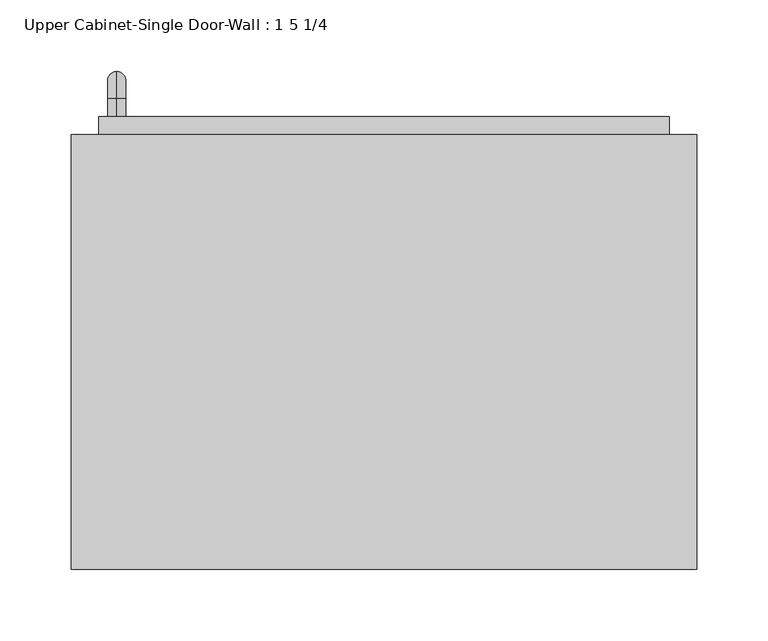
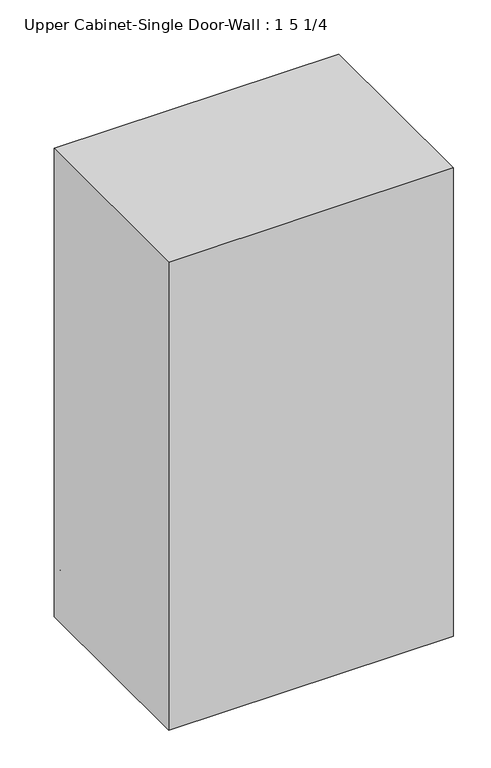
"""IFC4 building model written with IfcOpenShell, lengths in millimetres: furniture geometry, Upper Cabinet-Single Door-Wall : 1 5 1/4."""

import ifcopenshell
import ifcopenshell.guid

model = None  # the IFC model being written
_history = None  # IfcOwnerHistory: only IFC2X3 demands one
_inside = {}  # id of a spatial element -> (the spatial element, [elements in it])
_under = {}  # id of a project, library or spatial element -> (it, [spatial elements below it])
_declared = {}  # id of a project -> (the project, [libraries it declares])
_typed = {}  # id of a type object -> (the type object, [elements of that type])
_made_of = {}  # id of a material, layer set ... -> (it, [elements and type objects made of it])


def new_model(schema):
    """Start an empty IFC model of exactly this schema.

    Asked for "IFC4X3", IfcOpenShell would pick the latest addendum, in which some entities
    have other attributes; the version numbers below select the first issue.
    IFC2X3 requires an IfcOwnerHistory on every rooted entity: one is made here for all.
    """
    global model, _history
    if schema == "IFC4X3":
        model = ifcopenshell.file(schema_version=(4, 3, 0, 0))
    else:
        model = ifcopenshell.file(schema=schema)
    _inside.clear()
    _under.clear()
    _declared.clear()
    _typed.clear()
    _made_of.clear()
    _history = None
    if model.schema == "IFC2X3":
        org = make("IfcOrganization", Name="unknown")
        user = make(
            "IfcPersonAndOrganization",
            ThePerson=make("IfcPerson", FamilyName="unknown"),
            TheOrganization=org,
        )
        app = make(
            "IfcApplication",
            ApplicationDeveloper=org,
            Version="unknown",
            ApplicationFullName="unknown",
            ApplicationIdentifier="unknown",
        )
        _history = make(
            "IfcOwnerHistory",
            OwningUser=user,
            OwningApplication=app,
            ChangeAction="ADDED",
            CreationDate=0,
        )
    return model


def make(cls, **values):
    """One entity of the class cls with the attributes given. An attribute that is None is left unset."""
    return model.create_entity(
        cls, **{name: value for name, value in values.items() if value is not None}
    )


def rooted(cls, **values):
    """An entity with a GlobalId (a new one), such as an element, a storey or a relation."""
    return make(cls, GlobalId=ifcopenshell.guid.new(), OwnerHistory=_history, **values)


def si_unit(unit_type, name, prefix=None):
    """IfcSIUnit, for example si_unit("LENGTHUNIT", "METRE", prefix="MILLI")."""
    return make("IfcSIUnit", UnitType=unit_type, Prefix=prefix, Name=name)


def assignment(units):
    """IfcUnitAssignment: the units of a project."""
    return None if units is None else make("IfcUnitAssignment", Units=units)


def point(xyz):
    """IfcCartesianPoint."""
    return None if xyz is None else make("IfcCartesianPoint", Coordinates=xyz)


def direction(xyz):
    """IfcDirection."""
    return None if xyz is None else make("IfcDirection", DirectionRatios=xyz)


def frame(location, z_axis=None, x_axis=None):
    """IfcAxis2Placement3D, a coordinate frame: its origin and axes. An axis left out is left unset."""
    return make(
        "IfcAxis2Placement3D",
        Location=point(location),
        Axis=direction(z_axis),
        RefDirection=direction(x_axis),
    )


def origin():
    """The frame at (0, 0, 0) with its axes left unset."""
    return frame((0.0, 0.0, 0.0))


def place(relative_to, where):
    """IfcLocalPlacement: puts the frame where relative to a parent placement (None: the world)."""
    return make(
        "IfcLocalPlacement", PlacementRelTo=relative_to, RelativePlacement=where
    )


def context(
    kind, dimensions, precision=None, world=None, true_north=None, identifier=None
):
    """IfcGeometricRepresentationContext, for example the 3D "Model" context."""
    return make(
        "IfcGeometricRepresentationContext",
        ContextIdentifier=identifier,
        ContextType=kind,
        CoordinateSpaceDimension=dimensions,
        Precision=precision,
        WorldCoordinateSystem=world,
        TrueNorth=true_north,
    )


def project(units=None, contexts=None):
    """IfcProject with its units and contexts."""
    return rooted(
        "IfcProject",
        Name="project",
        RepresentationContexts=contexts,
        UnitsInContext=assignment(units),
    )


def spatial(cls, under=None, at=None, **own):
    """A site, building, storey or space (cls), placed at a placement, below another one or the project."""
    s = rooted(cls, ObjectPlacement=at, **own)
    if under is not None:
        _under.setdefault(under.id(), (under, []))[1].append(s)
    return s


def polyline(points):
    """IfcPolyline through the points."""
    return make("IfcPolyline", Points=[point(p) for p in points])


def circle_curve(where, radius):
    """IfcCircle in the frame where."""
    return make("IfcCircle", Position=where, Radius=radius)


def ellipse_curve(where, semi_axis1, semi_axis2):
    """IfcEllipse in the frame where."""
    return make(
        "IfcEllipse", Position=where, SemiAxis1=semi_axis1, SemiAxis2=semi_axis2
    )


def trimmed(basis, trim1, trim2, sense, master):
    """IfcTrimmedCurve: the piece of a basis curve between two trims."""
    return make(
        "IfcTrimmedCurve",
        BasisCurve=basis,
        Trim1=trim1,
        Trim2=trim2,
        SenseAgreement=sense,
        MasterRepresentation=master,
    )


def outline(outer, holes=None, kind="AREA"):
    """IfcArbitraryClosedProfileDef: a profile drawn as a closed curve; with holes, ...WithVoids."""
    if holes is None:
        return make("IfcArbitraryClosedProfileDef", ProfileType=kind, OuterCurve=outer)
    return make(
        "IfcArbitraryProfileDefWithVoids",
        ProfileType=kind,
        OuterCurve=outer,
        InnerCurves=holes,
    )


def extrude(swept, where, along, depth):
    """IfcExtrudedAreaSolid: the profile swept, set in the frame where, extruded along a direction by depth."""
    return make(
        "IfcExtrudedAreaSolid",
        SweptArea=swept,
        Position=where,
        ExtrudedDirection=direction(along),
        Depth=depth,
    )


def faces_of(points, faces, orient=None, outer=None):
    """IfcFace entities. A face is a list of loops; a loop is a list of indices into points, from 0.

    orient and outer hold one flag for each loop. By default every Orientation is true, the
    first loop of a face is its IfcFaceOuterBound and the others are IfcFaceBound.
    """
    made = []
    for i, loops in enumerate(faces):
        bounds = []
        for j, loop in enumerate(loops):
            is_outer = j == 0 if outer is None else outer[i][j]
            bounds.append(
                make(
                    "IfcFaceOuterBound" if is_outer else "IfcFaceBound",
                    Bound=make("IfcPolyLoop", Polygon=[points[k] for k in loop]),
                    Orientation=True if orient is None else orient[i][j],
                )
            )
        made.append(make("IfcFace", Bounds=bounds))
    return made


def faceted_brep(points, faces, orient=None, outer=None, voids=None):
    """IfcFacetedBrep: a solid bounded by flat faces; with voids (closed shells), ...WithVoids."""
    shared = [point(p) for p in points]
    hull = make("IfcClosedShell", CfsFaces=faces_of(shared, faces, orient, outer))
    if voids is None:
        return make("IfcFacetedBrep", Outer=hull)
    return make(
        "IfcFacetedBrepWithVoids",
        Outer=hull,
        Voids=[
            make(cls, CfsFaces=faces_of(shared, fs, o, b)) for cls, fs, o, b in voids
        ],
    )


def shape(context_of_items, identifier, shape_type, items):
    """IfcShapeRepresentation: the items that make up one representation, for example the "Body"."""
    return make(
        "IfcShapeRepresentation",
        ContextOfItems=context_of_items,
        RepresentationIdentifier=identifier,
        RepresentationType=shape_type,
        Items=items,
    )


def source(mapping_origin, context_of_items, identifier, shape_type, items):
    """IfcRepresentationMap: a shape defined once, which mapped items show again and again."""
    return make(
        "IfcRepresentationMap",
        MappingOrigin=mapping_origin,
        MappedRepresentation=shape(context_of_items, identifier, shape_type, items),
    )


def transform(
    local_origin,
    x_axis=None,
    y_axis=None,
    z_axis=None,
    scale=None,
    scale2=None,
    scale3=None,
    uniform=True,
):
    """IfcCartesianTransformationOperator3D, or its non-uniform kind. x_axis, y_axis, z_axis: its Axis1, 2, 3."""
    if uniform:
        return make(
            "IfcCartesianTransformationOperator3D",
            Axis1=direction(x_axis),
            Axis2=direction(y_axis),
            LocalOrigin=point(local_origin),
            Scale=scale,
            Axis3=direction(z_axis),
        )
    return make(
        "IfcCartesianTransformationOperator3DnonUniform",
        Axis1=direction(x_axis),
        Axis2=direction(y_axis),
        LocalOrigin=point(local_origin),
        Scale=scale,
        Axis3=direction(z_axis),
        Scale2=scale2,
        Scale3=scale3,
    )


def mapped(mapping_source, mapping_target):
    """IfcMappedItem: shows the shape of a source again, moved by a transform."""
    return make(
        "IfcMappedItem", MappingSource=mapping_source, MappingTarget=mapping_target
    )


def made_of(thing, what):
    """Note that an element or type object is made of a material, layer set ...; save() writes the relation."""
    if what is not None:
        _made_of.setdefault(what.id(), (what, []))[1].append(thing)
    return thing


def element(
    cls,
    number,
    at=None,
    inside=None,
    cuts=None,
    type_object=None,
    material=None,
    context=None,
    identifier="Body",
    shape_type=None,
    held_by="IfcProductDefinitionShape",
    body=None,
    shapes=None,
    **own,
):
    """One element of the class cls, such as IfcWall. Its Tag is "e" and its number.

    at: its placement. inside: the storey or other place that contains it. cuts: it is an
    opening in that element (IfcRelVoidsElement). A single representation is given by context,
    identifier, shape_type and body (its items); several are given by shapes. held_by: the class
    of the entity that holds the representations. save() writes the other relations.
    """
    e = rooted(cls, Tag="e%d" % number, ObjectPlacement=at, **own)
    if body is not None:
        shapes = [shape(context, identifier, shape_type, body)]
    if shapes is not None:
        e.Representation = make(held_by, Representations=shapes)
    if inside is not None:
        _inside.setdefault(inside.id(), (inside, []))[1].append(e)
    if cuts is not None:
        rooted(
            "IfcRelVoidsElement", RelatingBuildingElement=cuts, RelatedOpeningElement=e
        )
    if type_object is not None:
        _typed.setdefault(type_object.id(), (type_object, []))[1].append(e)
    return made_of(e, material)


def aggregate(whole, parts):
    """IfcRelAggregates: a whole, such as a stair, and the parts it consists of."""
    return rooted("IfcRelAggregates", RelatingObject=whole, RelatedObjects=parts)


def save(model, path):
    """Write the relations noted so far, then the file.

    IfcRelAggregates (storeys below a building ...), IfcRelContainedInSpatialStructure (elements
    in a storey), IfcRelDefinesByType, IfcRelAssociatesMaterial and IfcRelDeclares: one each for
    every whole, place, type object, material and project.
    """
    for whole, parts in _under.values():
        aggregate(whole, parts)
    for where, things in _inside.values():
        rooted(
            "IfcRelContainedInSpatialStructure",
            RelatedElements=things,
            RelatingStructure=where,
        )
    for kind, things in _typed.values():
        rooted("IfcRelDefinesByType", RelatedObjects=things, RelatingType=kind)
    for what, things in _made_of.values():
        rooted("IfcRelAssociatesMaterial", RelatedObjects=things, RelatingMaterial=what)
    for by, libraries in _declared.values():
        rooted("IfcRelDeclares", RelatingContext=by, RelatedDefinitions=libraries)
    model.write(path)


def plane_surface(at):
    """IfcPlane: the flat surface through the origin of the frame at, square to its z axis."""
    return make("IfcPlane", Position=at)


def cylinder_surface(at, radius):
    """IfcCylindricalSurface: all points at the distance radius from the z axis of the frame at."""
    return make("IfcCylindricalSurface", Position=at, Radius=radius)


def revolved_surface(curve, axis_point, axis_direction):
    """IfcSurfaceOfRevolution: the curve turned about the line through axis_point along axis_direction."""
    return make(
        "IfcSurfaceOfRevolution",
        SweptCurve=make("IfcArbitraryOpenProfileDef", ProfileType="CURVE", Curve=curve),
        AxisPosition=make("IfcAxis1Placement", Location=point(axis_point), Axis=direction(axis_direction)),
    )


def advanced_brep(points, edges, surfaces, faces):
    """IfcAdvancedBrep: a solid bounded by faces that lie on surfaces and meet in shared edges.

    An edge is (start, end): straight between two places in points (the first is 0);
    or (start, end, curve); or (start, end, curve, False) where it runs against its curve.
    A face is (place in surfaces, loops), or (place, loops, False) where it looks against
    its surface's normal. A loop lists edges by number (the first is 1), with a minus sign
    where the edge is run from its end to its start. The first loop is the outer one.
    """
    corners = [point(p) for p in points]
    vertices = [make("IfcVertexPoint", VertexGeometry=c) for c in corners]
    made = []
    for start, end, *more in edges:
        made.append(
            make(
                "IfcEdgeCurve",
                EdgeStart=vertices[start],
                EdgeEnd=vertices[end],
                EdgeGeometry=more[0] if more else make("IfcPolyline", Points=[corners[start], corners[end]]),
                SameSense=more[1] if len(more) > 1 else True,
            )
        )
    hull = []
    for where, loops, *sense in faces:
        bounds = []
        for j, loop in enumerate(loops):
            ring = [make("IfcOrientedEdge", EdgeElement=made[abs(k) - 1], Orientation=k > 0) for k in loop]
            bounds.append(
                make(
                    "IfcFaceOuterBound" if j == 0 else "IfcFaceBound",
                    Bound=make("IfcEdgeLoop", EdgeList=ring),
                    Orientation=True,
                )
            )
        hull.append(make("IfcAdvancedFace", Bounds=bounds, FaceSurface=surfaces[where], SameSense=sense[0] if sense else True))
    return make("IfcAdvancedBrep", Outer=make("IfcClosedShell", CfsFaces=hull))


def upper_cabinet_single_door_wall_1_5_1_4_63a5970b(model_context):
    return source(origin(), model_context, "Body", "SolidModel", [
        faceted_brep([(-189.3038372, 90.4875, 2133.6), (-189.3038372, 90.4875, 1371.6), (248.8461628, 90.4875, 1371.6), (248.8461628, 90.4875, 2133.6), (-189.3038372, 395.2875, 2133.6), (248.8461628, 395.2875, 2133.6), (248.8461628, 395.2875, 1371.6), (-189.3038372, 395.2875, 1371.6), (-170.2538372, 395.2875, 2114.55), (-170.2538372, 395.2875, 1390.65), (229.7961628, 395.2875, 1390.65), (229.7961628, 395.2875, 2114.55), (229.7961628, 109.5375, 2114.55), (-170.2538372, 109.5375, 2114.55), (229.7961628, 109.5375, 1390.65), (-170.2538372, 109.5375, 1390.65)], [[[0, 1, 2, 3]], [[4, 5, 6, 7], [8, 9, 10, 11]], [[1, 0, 4, 7]], [[2, 1, 7, 6]], [[3, 2, 6, 5]], [[0, 3, 5, 4]], [[8, 11, 12, 13]], [[11, 10, 14, 12]], [[10, 9, 15, 14]], [[9, 8, 13, 15]], [[13, 12, 14, 15]]]),
        advanced_brep(
        [(-157.5538372, 407.9875, 1517.65), (-157.5538372, 407.9875, 1530.35), (-157.5538372, 420.6875, 1517.65), (-157.5538372, 420.6875, 1530.35), (-157.5538372, 439.7375, 1511.3), (-157.5538372, 427.0375, 1511.3), (-157.5538372, 427.0375, 1435.1), (-157.5538372, 439.7375, 1435.1), (-157.5538372, 420.6875, 1416.05), (-157.5538372, 420.6875, 1428.75), (-157.5538372, 407.9875, 1428.75), (-157.5538372, 407.9875, 1416.05)],
        [
            (0, 1, circle_curve(frame((-157.5538372, 407.9875, 1524.0), z_axis=(0.0, -1.0, 0.0), x_axis=(0.0, 0.0, 1.0)), 6.35)),
            (1, 0, circle_curve(frame((-157.5538372, 407.9875, 1524.0), z_axis=(0.0, -1.0, 0.0), x_axis=(0.0, 0.0, 1.0)), 6.35)),
            (0, 2),
            (2, 3, circle_curve(frame((-157.5538372, 420.6875, 1524.0), z_axis=(0.0, -1.0, 0.0), x_axis=(0.0, 0.0, 1.0)), 6.35)),
            (3, 1),
            (3, 2, circle_curve(frame((-157.5538372, 420.6875, 1524.0), z_axis=(0.0, -1.0, 0.0), x_axis=(0.0, 0.0, 1.0)), 6.35)),
            (4, 3, circle_curve(frame((-157.5538372, 420.6875, 1511.3), z_axis=(1.0, 0.0, 0.0), x_axis=(0.0, 0.0, 1.0)), 19.05)),
            (2, 5, circle_curve(frame((-157.5538372, 420.6875, 1511.3), z_axis=(-1.0, 0.0, 0.0), x_axis=(0.0, 0.0, 1.0)), 6.35)),
            (5, 4, circle_curve(frame((-157.5538372, 433.3875, 1511.3), z_axis=(0.0, 0.0, 1.0), x_axis=(0.0, 1.0, 0.0)), 6.35)),
            (4, 5, circle_curve(frame((-157.5538372, 433.3875, 1511.3), z_axis=(0.0, 0.0, 1.0), x_axis=(0.0, 1.0, 0.0)), 6.35)),
            (5, 6),
            (6, 7, circle_curve(frame((-157.5538372, 433.3875, 1435.1), z_axis=(0.0, 0.0, 1.0), x_axis=(0.0, 1.0, 0.0)), 6.35)),
            (7, 4),
            (7, 6, circle_curve(frame((-157.5538372, 433.3875, 1435.1), z_axis=(0.0, 0.0, 1.0), x_axis=(0.0, 1.0, 0.0)), 6.35)),
            (8, 7, circle_curve(frame((-157.5538372, 420.6875, 1435.1), z_axis=(1.0, 0.0, 0.0), x_axis=(0.0, 1.0, 0.0)), 19.05)),
            (6, 9, circle_curve(frame((-157.5538372, 420.6875, 1435.1), z_axis=(-1.0, 0.0, 0.0), x_axis=(0.0, 1.0, 0.0)), 6.35)),
            (9, 8, circle_curve(frame((-157.5538372, 420.6875, 1422.4), z_axis=(0.0, 1.0, 0.0), x_axis=(0.0, 0.0, -1.0)), 6.35)),
            (8, 9, circle_curve(frame((-157.5538372, 420.6875, 1422.4), z_axis=(0.0, 1.0, 0.0), x_axis=(0.0, 0.0, -1.0)), 6.35)),
            (10, 11, circle_curve(frame((-157.5538372, 407.9875, 1422.4), z_axis=(0.0, -1.0, 0.0), x_axis=(0.0, 0.0, -1.0)), 6.35)),
            (11, 10, circle_curve(frame((-157.5538372, 407.9875, 1422.4), z_axis=(0.0, -1.0, 0.0), x_axis=(0.0, 0.0, -1.0)), 6.35)),
            (9, 10),
            (11, 8),
        ],
        [
            plane_surface(frame((-163.9038372, 407.9875, 1524.0), z_axis=(0.0, -1.0, 0.0), x_axis=(0.0, 0.0, 1.0))),
            cylinder_surface(frame((-157.5538372, 407.9875, 1524.0), z_axis=(0.0, -1.0, 0.0), x_axis=(0.0, 0.0, 1.0)), 6.35),
            revolved_surface(trimmed(ellipse_curve(frame((-157.5538372, 420.6875, 1524.0), z_axis=(0.0, -1.0, 0.0), x_axis=(0.0, 0.0, 1.0)), 6.35, 6.35), [point((-157.5538372, 420.6875, 1517.65))], [point((-157.5538372, 420.6875, 1530.35))], True, "CARTESIAN"), (-157.5538372, 420.6875, 1511.3), (-1.0, 0.0, 0.0)),
            revolved_surface(trimmed(ellipse_curve(frame((-157.5538372, 420.6875, 1524.0), z_axis=(0.0, -1.0, 0.0), x_axis=(0.0, 0.0, 1.0)), 6.35, 6.35), [point((-157.5538372, 420.6875, 1530.35))], [point((-157.5538372, 420.6875, 1517.65))], True, "CARTESIAN"), (-157.5538372, 420.6875, 1511.3), (-1.0, 0.0, 0.0)),
            cylinder_surface(frame((-157.5538372, 433.3875, 1511.3), z_axis=(0.0, 0.0, 1.0), x_axis=(0.0, 1.0, 0.0)), 6.35),
            revolved_surface(trimmed(ellipse_curve(frame((-157.5538372, 433.3875, 1435.1), z_axis=(0.0, 0.0, 1.0), x_axis=(0.0, 1.0, 0.0)), 6.35, 6.35), [point((-157.5538372, 427.0375, 1435.1))], [point((-157.5538372, 439.7375, 1435.1))], True, "CARTESIAN"), (-157.5538372, 420.6875, 1435.1), (-1.0, 0.0, 0.0)),
            revolved_surface(trimmed(ellipse_curve(frame((-157.5538372, 433.3875, 1435.1), z_axis=(0.0, 0.0, 1.0), x_axis=(0.0, 1.0, 0.0)), 6.35, 6.35), [point((-157.5538372, 439.7375, 1435.1))], [point((-157.5538372, 427.0375, 1435.1))], True, "CARTESIAN"), (-157.5538372, 420.6875, 1435.1), (-1.0, 0.0, 0.0)),
            plane_surface(frame((-163.9038372, 407.9875, 1422.4), z_axis=(0.0, -1.0, 0.0), x_axis=(0.0, 0.0, -1.0))),
            cylinder_surface(frame((-157.5538372, 420.6875, 1422.4), z_axis=(0.0, 1.0, 0.0), x_axis=(0.0, 0.0, -1.0)), 6.35),
        ],
        [
            (0, [[1, 2]]),
            (1, [[-1, 3, 4, 5]]),
            (1, [[-2, -5, 6, -3]]),
            (2, [[7, -4, 8, 9]]),
            (3, [[-8, -6, -7, 10]]),
            (4, [[-9, 11, 12, 13]]),
            (4, [[-10, -13, 14, -11]]),
            (5, [[15, -12, 16, 17]]),
            (6, [[-16, -14, -15, 18]]),
            (7, [[19, 20]]),
            (8, [[-17, 21, -20, 22]]),
            (8, [[-18, -22, -19, -21]]),
        ],
    ),
        extrude(outline(polyline([(-170.2538372, 407.9875), (229.7961628, 407.9875), (229.7961628, 376.2375), (-170.2538372, 376.2375), (-170.2538372, 407.9875)])), frame((0.0, 0.0, 1390.65), z_axis=(0.0, 0.0, 1.0), x_axis=(1.0, 0.0, 0.0)), (0.0, 0.0, 1.0), 723.9),
    ])


if __name__ == "__main__":
    model = new_model("IFC4")
    model_context = context("Model", 3, world=origin())
    ifc_project = project(units=[si_unit("LENGTHUNIT", "METRE", prefix="MILLI")], contexts=[model_context])
    site = spatial("IfcSite", under=ifc_project)
    building = spatial("IfcBuilding", under=site)
    placement = place(None, origin())
    upper_cabinet_single_door_wall_1_5_1_4_shape = upper_cabinet_single_door_wall_1_5_1_4_63a5970b(model_context)
    element("IfcFurniture", 1, ObjectType="Upper Cabinet-Single Door-Wall : 1 5 1/4", at=placement, inside=building, context=model_context, shape_type="MappedRepresentation", body=[
        mapped(upper_cabinet_single_door_wall_1_5_1_4_shape, transform((0.0, 0.0, 0.0), x_axis=(1.0, 0.0, 0.0), y_axis=(0.0, 1.0, 0.0), z_axis=(0.0, 0.0, 1.0))),
    ])
    save(model, "model.ifc")
